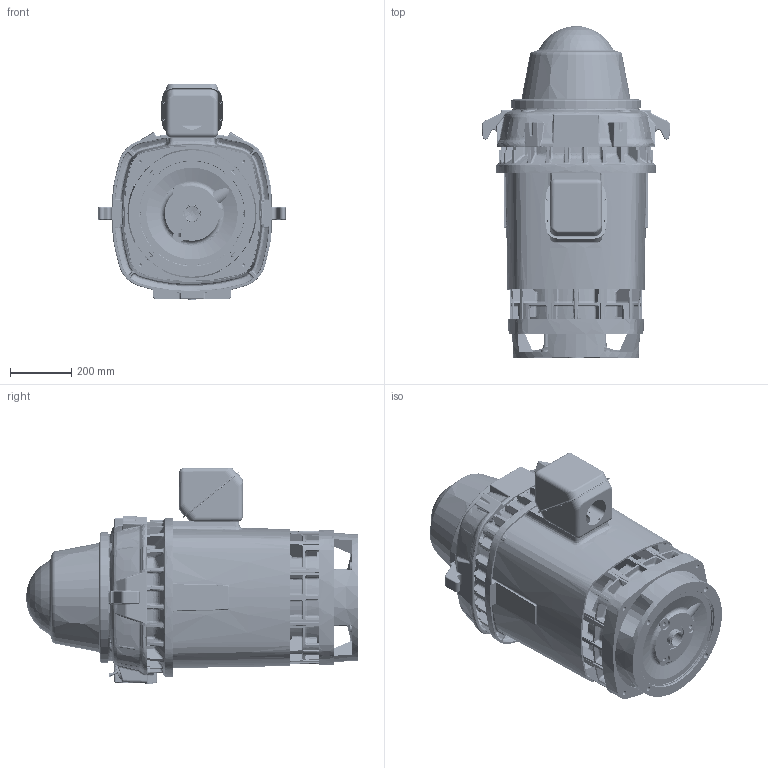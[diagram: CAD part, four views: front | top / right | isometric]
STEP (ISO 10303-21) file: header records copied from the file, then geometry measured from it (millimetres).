
FILE_DESCRIPTION((''),'2;1');
FILE_NAME('400_RU_ASSY_ASM','2015-08-10T',('NMC2342'),('Nidec Motor Corporation'),'PRO/ENGINEER BY PARAMETRIC TECHNOLOGY CORPORATION, 2013150','PRO/ENGINEER BY PARAMETRIC TECHNOLOGY CORPORATION, 2013150','');
FILE_SCHEMA(('CONFIG_CONTROL_DESIGN'));
Products named in the file (15): 0188660; 0188662; 0989200; 0989207; 0989200-0000_A_ASM; 0988193; 0989210; 0378702; 0378703; 0028711; SHAFT; 0582109; 0396021; 0132591; 400_RU_ASSY_ASM
Assembly tree (14 placements, depth 3):
  400_RU_ASSY_ASM
    0188660
    0188662
    0989200-0000_A_ASM
      0989200
      0989207
    0988193
    0989210
    0378702
    0378703
    0028711
    SHAFT
    0582109
    0396021
    0132591
Bounding box: 612.39 x 1083.05 x 705.25 mm (x, y, z)
Volume: 30188003.7 mm3; surface area: 6197893.4 mm2
Topology: 15 solids, 15 shells, 6365 faces, 15631 edges, 9274 vertices
Faces by surface type: bspline 2725, plane 1235, cylinder 1180, torus 505, cone 384, sphere 289, extrusion 47
Entity records: 281757 total; most frequent: CARTESIAN_POINT 152265, ORIENTED_EDGE 31138, DIRECTION 21441, EDGE_CURVE 15569, VERTEX_POINT 9274, AXIS2_PLACEMENT_3D 8896, B_SPLINE_CURVE_WITH_KNOTS 6742, EDGE_LOOP 6581
